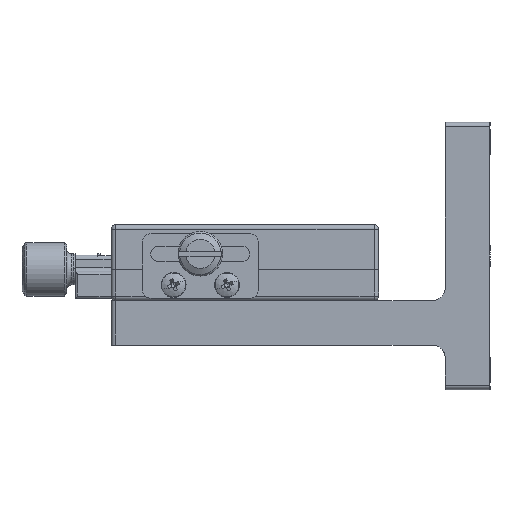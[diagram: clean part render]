
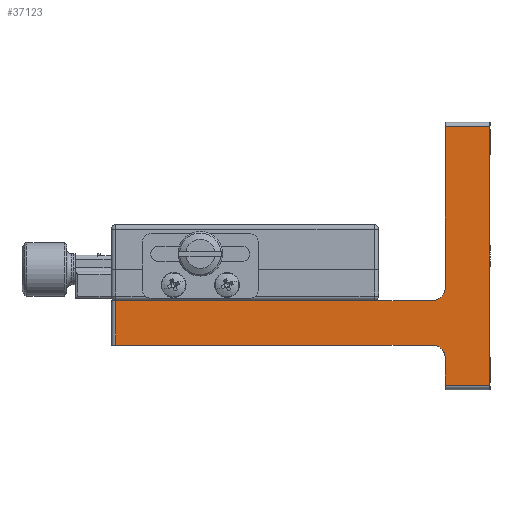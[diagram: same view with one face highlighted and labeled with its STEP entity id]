
A CAD part, left-side view. The second image highlights one B-rep face of the part: STEP entity #37123.
In plain terms, the highlighted planar face has unit normal (-1, 0, 0).
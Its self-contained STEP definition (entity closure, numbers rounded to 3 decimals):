
#231 = VERTEX_POINT ( 'NONE', #10094 ) ;
#924 = VERTEX_POINT ( 'NONE', #17946 ) ;
#995 = FACE_OUTER_BOUND ( 'NONE', #17071, .T. ) ;
#1326 = LINE ( 'NONE', #40167, #42088 ) ;
#1773 = DIRECTION ( 'NONE',  ( 1., 0., 0. ) ) ;
#2689 = ORIENTED_EDGE ( 'NONE', *, *, #22390, .F. ) ;
#3423 = VERTEX_POINT ( 'NONE', #54644 ) ;
#3817 = CARTESIAN_POINT ( 'NONE',  ( -30., -10., -19. ) ) ;
#5413 = ORIENTED_EDGE ( 'NONE', *, *, #27338, .F. ) ;
#5629 = CIRCLE ( 'NONE', #34726, 3. ) ;
#6503 = CARTESIAN_POINT ( 'NONE',  ( -30., 0., 0. ) ) ;
#6738 = DIRECTION ( 'NONE',  ( 0., 0., 1. ) ) ;
#7082 = CARTESIAN_POINT ( 'NONE',  ( -30., 74., 0. ) ) ;
#7770 = CARTESIAN_POINT ( 'NONE',  ( -30., 3., -10. ) ) ;
#9809 = AXIS2_PLACEMENT_3D ( 'NONE', #55126, #24591, #60273 ) ;
#9959 = EDGE_CURVE ( 'NONE', #37511, #924, #13335, .T. ) ;
#10094 = CARTESIAN_POINT ( 'NONE',  ( -30., 74., 0. ) ) ;
#10348 = LINE ( 'NONE', #43230, #63056 ) ;
#11897 = VECTOR ( 'NONE', #23473, 1000. ) ;
#12148 = LINE ( 'NONE', #53717, #24114 ) ;
#12304 = CARTESIAN_POINT ( 'NONE',  ( -30., 0., -10. ) ) ;
#12980 = VERTEX_POINT ( 'NONE', #29117 ) ;
#13097 = VECTOR ( 'NONE', #17437, 1000. ) ;
#13335 = CIRCLE ( 'NONE', #46576, 3. ) ;
#14343 = VERTEX_POINT ( 'NONE', #43020 ) ;
#15104 = LINE ( 'NONE', #48880, #11897 ) ;
#15263 = VERTEX_POINT ( 'NONE', #56280 ) ;
#17071 = EDGE_LOOP ( 'NONE', ( #26756, #60006, #5413, #28730, #2689, #59206, #60189, #44647, #42025, #33113 ) ) ;
#17437 = DIRECTION ( 'NONE',  ( 0., 1., 0. ) ) ;
#17946 = CARTESIAN_POINT ( 'NONE',  ( -30., 0., -13. ) ) ;
#18388 = DIRECTION ( 'NONE',  ( 0., 1., 0. ) ) ;
#18743 = LINE ( 'NONE', #59205, #30698 ) ;
#22206 = VERTEX_POINT ( 'NONE', #60327 ) ;
#22390 = EDGE_CURVE ( 'NONE', #29621, #15263, #47622, .T. ) ;
#22911 = DIRECTION ( 'NONE',  ( 0., 0., -1. ) ) ;
#23269 = CARTESIAN_POINT ( 'NONE',  ( -30., 3., 3. ) ) ;
#23473 = DIRECTION ( 'NONE',  ( 0., -1., 0. ) ) ;
#23676 = EDGE_CURVE ( 'NONE', #14343, #15263, #18743, .T. ) ;
#24043 = EDGE_CURVE ( 'NONE', #37511, #3423, #28295, .T. ) ;
#24114 = VECTOR ( 'NONE', #33448, 1000. ) ;
#24591 = DIRECTION ( 'NONE',  ( 1., 0., 0. ) ) ;
#26756 = ORIENTED_EDGE ( 'NONE', *, *, #51055, .F. ) ;
#27338 = EDGE_CURVE ( 'NONE', #14343, #49282, #10348, .T. ) ;
#27638 = DIRECTION ( 'NONE',  ( 0., 0., -1. ) ) ;
#28295 = LINE ( 'NONE', #12304, #13097 ) ;
#28419 = DIRECTION ( 'NONE',  ( 0., 0., -1. ) ) ;
#28730 = ORIENTED_EDGE ( 'NONE', *, *, #23676, .T. ) ;
#29117 = CARTESIAN_POINT ( 'NONE',  ( -30., 0., -19. ) ) ;
#29621 = VERTEX_POINT ( 'NONE', #32642 ) ;
#30698 = VECTOR ( 'NONE', #18388, 1000. ) ;
#32359 = CARTESIAN_POINT ( 'NONE',  ( -30., 3., -13. ) ) ;
#32642 = CARTESIAN_POINT ( 'NONE',  ( -30., 0., 3. ) ) ;
#33113 = ORIENTED_EDGE ( 'NONE', *, *, #9959, .T. ) ;
#33448 = DIRECTION ( 'NONE',  ( 0., -1., 0. ) ) ;
#34620 = PLANE ( 'NONE',  #9809 ) ;
#34726 = AXIS2_PLACEMENT_3D ( 'NONE', #23269, #58966, #28419 ) ;
#36993 = LINE ( 'NONE', #7082, #48956 ) ;
#37123 = ADVANCED_FACE ( 'NONE', ( #995 ), #34620, .F. ) ;
#37486 = DIRECTION ( 'NONE',  ( 0., 0., -1. ) ) ;
#37511 = VERTEX_POINT ( 'NONE', #7770 ) ;
#37516 = EDGE_CURVE ( 'NONE', #231, #22206, #12148, .T. ) ;
#40167 = CARTESIAN_POINT ( 'NONE',  ( -30., 0., -20. ) ) ;
#42025 = ORIENTED_EDGE ( 'NONE', *, *, #24043, .F. ) ;
#42088 = VECTOR ( 'NONE', #65771, 1000. ) ;
#42360 = EDGE_CURVE ( 'NONE', #231, #3423, #36993, .T. ) ;
#43020 = CARTESIAN_POINT ( 'NONE',  ( -30., -10., 39. ) ) ;
#43230 = CARTESIAN_POINT ( 'NONE',  ( -30., -10., 40. ) ) ;
#44647 = ORIENTED_EDGE ( 'NONE', *, *, #42360, .T. ) ;
#46576 = AXIS2_PLACEMENT_3D ( 'NONE', #32359, #1773, #37486 ) ;
#47622 = LINE ( 'NONE', #6503, #61168 ) ;
#48880 = CARTESIAN_POINT ( 'NONE',  ( -30., 75., -19. ) ) ;
#48956 = VECTOR ( 'NONE', #27638, 1000. ) ;
#49167 = EDGE_CURVE ( 'NONE', #12980, #49282, #15104, .T. ) ;
#49282 = VERTEX_POINT ( 'NONE', #3817 ) ;
#51055 = EDGE_CURVE ( 'NONE', #12980, #924, #1326, .T. ) ;
#53717 = CARTESIAN_POINT ( 'NONE',  ( -30., 75., 0. ) ) ;
#54644 = CARTESIAN_POINT ( 'NONE',  ( -30., 74., -10. ) ) ;
#55126 = CARTESIAN_POINT ( 'NONE',  ( -30., 75., 0. ) ) ;
#56280 = CARTESIAN_POINT ( 'NONE',  ( -30., 0., 39. ) ) ;
#58966 = DIRECTION ( 'NONE',  ( 1., 0., 0. ) ) ;
#59205 = CARTESIAN_POINT ( 'NONE',  ( -30., 75., 39. ) ) ;
#59206 = ORIENTED_EDGE ( 'NONE', *, *, #64421, .T. ) ;
#60006 = ORIENTED_EDGE ( 'NONE', *, *, #49167, .T. ) ;
#60189 = ORIENTED_EDGE ( 'NONE', *, *, #37516, .F. ) ;
#60273 = DIRECTION ( 'NONE',  ( 0., 0., -1. ) ) ;
#60327 = CARTESIAN_POINT ( 'NONE',  ( -30., 3., 0. ) ) ;
#61168 = VECTOR ( 'NONE', #6738, 1000. ) ;
#63056 = VECTOR ( 'NONE', #22911, 1000. ) ;
#64421 = EDGE_CURVE ( 'NONE', #29621, #22206, #5629, .T. ) ;
#65771 = DIRECTION ( 'NONE',  ( 0., 0., 1. ) ) ;
